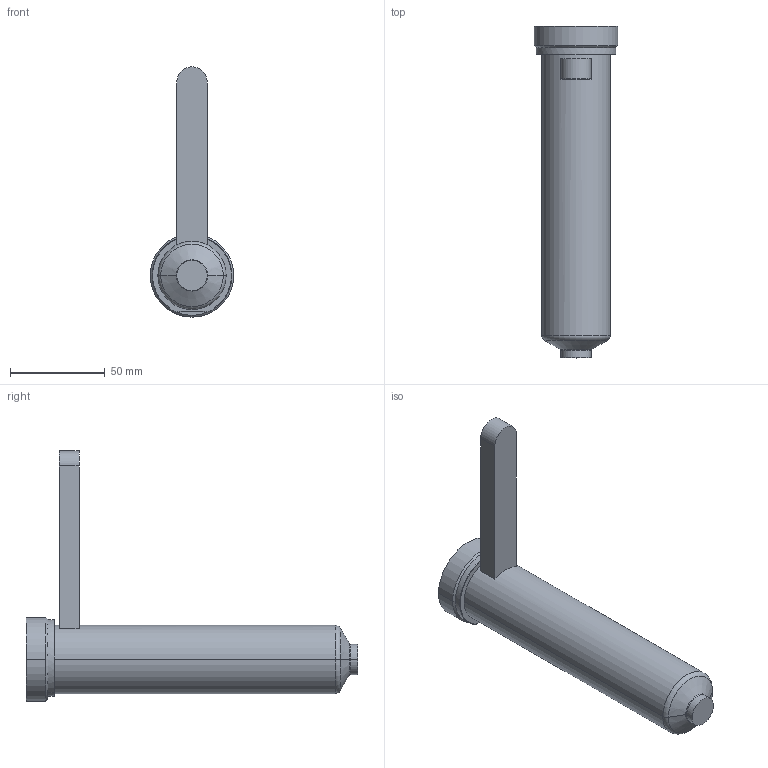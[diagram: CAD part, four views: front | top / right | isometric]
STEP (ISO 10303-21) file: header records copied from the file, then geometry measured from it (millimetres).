
FILE_DESCRIPTION((''),'2;1');
FILE_NAME('EO12_VG-ST_STD_160_COT','2024-02-19T12:51:19',('sundharh'),(''),'CREO PARAMETRIC BY PTC INC, 2023154','CREO PARAMETRIC BY PTC INC, 2023154','');
FILE_SCHEMA(('CONFIG_CONTROL_DESIGN'));
Length unit declared in the file: millimetre
Products named in the file (1): EO12_VG-ST_STD_160_COT
Bounding box: 44 x 175 x 132 mm (x, y, z)
Volume: 194106.8 mm3; surface area: 27059 mm2
Topology: 1 solids, 1 shells, 31 faces, 67 edges, 40 vertices
Faces by surface type: cylinder 11, plane 9, torus 7, cone 4
Entity records: 951 total; most frequent: CARTESIAN_POINT 218, DIRECTION 159, ORIENTED_EDGE 134, AXIS2_PLACEMENT_3D 67, EDGE_CURVE 67, VERTEX_POINT 40, CIRCLE 36, EDGE_LOOP 33
